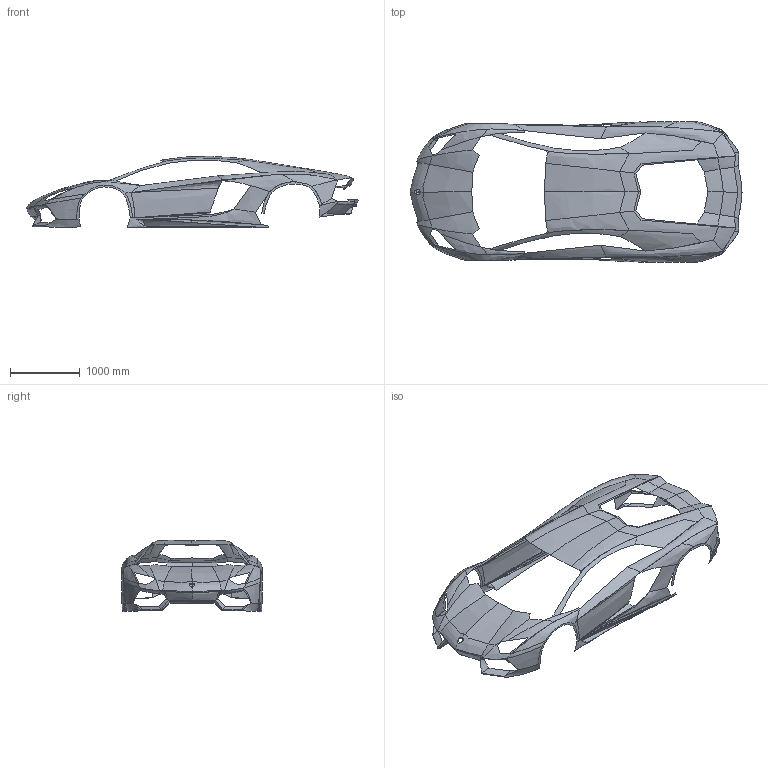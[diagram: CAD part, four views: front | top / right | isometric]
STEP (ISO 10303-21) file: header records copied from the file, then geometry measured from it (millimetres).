
FILE_DESCRIPTION(('CATIA V5 STEP Exchange'),'2;1');
FILE_NAME('C:\Users\sony\Desktop\Files to Upload\Lam_part.stp','2019-07-12T16:12:36+00:00',('none'),('none'),'CATIA Version 5 Release 20 GA (IN-10)','CATIA V5 STEP AP203','none');
FILE_SCHEMA(('CONFIG_CONTROL_DESIGN'));
Products named in the file (1): Part1
Bounding box: 4774.65 x 2023.37 x 1025.85 mm (x, y, z)
Surface area: 10335209.1 mm2 (no closed solid volume)
Topology: 0 solids, 176 shells, 176 faces, 1270 edges, 1690 vertices
Faces by surface type: bspline 174, plane 2
Entity records: 68060 total; most frequent: CARTESIAN_POINT 61868, B_SPLINE_CURVE_WITH_KNOTS 1270, ORIENTED_EDGE 850, EDGE_CURVE 850, VERTEX_POINT 850, COMPOSITE_CURVE 420, COMPOSITE_CURVE_SEGMENT 420, TRIMMED_CURVE 420
